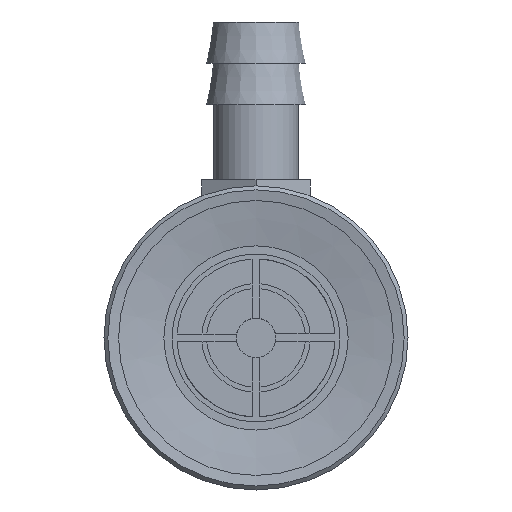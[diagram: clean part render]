
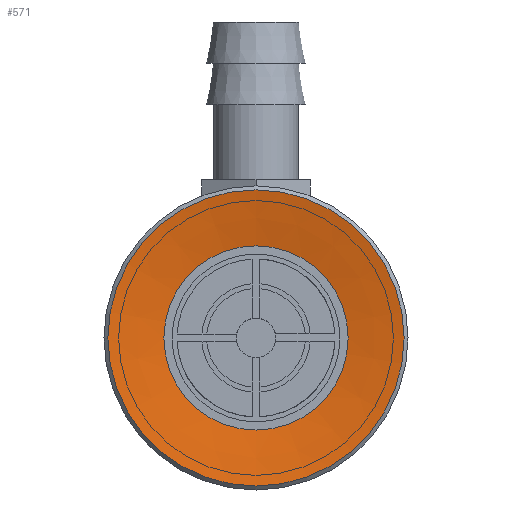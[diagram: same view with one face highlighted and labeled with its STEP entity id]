
A CAD part, front view. The second image highlights one B-rep face of the part: STEP entity #571.
In plain terms, the highlighted conical face has half-angle 80 degrees and reference radius 4.664 mm.
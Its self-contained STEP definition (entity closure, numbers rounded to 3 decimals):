
#571=ADVANCED_FACE('',(#900,#901),#902,.F.);
#900=FACE_BOUND('',#1303,.T.);
#901=FACE_OUTER_BOUND('',#1304,.T.);
#902=CONICAL_SURFACE('',#1305,4.664,1.396);
#1303=EDGE_LOOP('',(#2238));
#1304=EDGE_LOOP('',(#2239));
#1305=AXIS2_PLACEMENT_3D('',#2240,#2241,#2242);
#2238=ORIENTED_EDGE('',*,*,#2806,.F.);
#2239=ORIENTED_EDGE('',*,*,#2807,.T.);
#2240=CARTESIAN_POINT('',(0.0,0.5,0.0));
#2241=DIRECTION('',(-0.0,-1.0,0.));
#2242=DIRECTION('',(0.0,0.,-1.0));
#2806=EDGE_CURVE('',#3295,#3295,#3296,.T.);
#2807=EDGE_CURVE('',#3297,#3297,#3298,.T.);
#3295=VERTEX_POINT('',#4322);
#3296=CIRCLE('',#4323,4.664);
#3297=VERTEX_POINT('',#4324);
#3298=CIRCLE('',#4325,7.5);
#4322=CARTESIAN_POINT('',(0.0,0.5,-4.664));
#4323=AXIS2_PLACEMENT_3D('',#4844,#4845,#4846);
#4324=CARTESIAN_POINT('',(0.0,0.,-7.5));
#4325=AXIS2_PLACEMENT_3D('',#4847,#4848,#4849);
#4844=CARTESIAN_POINT('',(0.0,0.5,0.0));
#4845=DIRECTION('',(0.0,-1.0,0.));
#4846=DIRECTION('',(0.0,0.,-1.0));
#4847=CARTESIAN_POINT('',(0.0,0.0,0.0));
#4848=DIRECTION('',(0.0,-1.0,0.));
#4849=DIRECTION('',(0.0,0.,-1.0));
